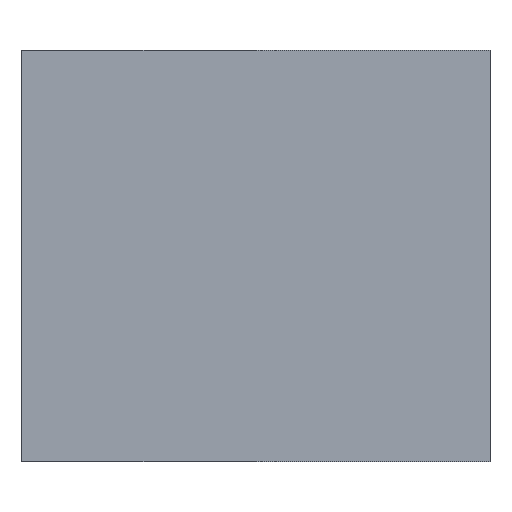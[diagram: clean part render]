
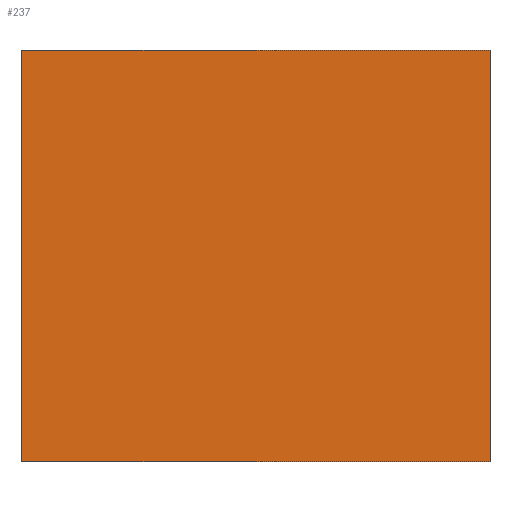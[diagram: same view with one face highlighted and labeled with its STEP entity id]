
A CAD part, front view. The second image highlights one B-rep face of the part: STEP entity #237.
In plain terms, the highlighted planar face has unit normal (0, -1, 0).
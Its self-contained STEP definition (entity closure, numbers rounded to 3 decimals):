
#21 = EDGE_CURVE('',#22,#24,#26,.T.);
#22 = VERTEX_POINT('',#23);
#23 = CARTESIAN_POINT('',(-14.2,-17.,0.));
#24 = VERTEX_POINT('',#25);
#25 = CARTESIAN_POINT('',(-14.2,-17.,25.));
#26 = SURFACE_CURVE('',#27,(#31,#43),.PCURVE_S1.);
#27 = LINE('',#28,#29);
#28 = CARTESIAN_POINT('',(-14.2,-17.,0.));
#29 = VECTOR('',#30,1.);
#30 = DIRECTION('',(0.,0.,1.));
#31 = PCURVE('',#32,#37);
#32 = PLANE('',#33);
#33 = AXIS2_PLACEMENT_3D('',#34,#35,#36);
#34 = CARTESIAN_POINT('',(-14.2,-17.,0.));
#35 = DIRECTION('',(1.,0.,0.));
#36 = DIRECTION('',(0.,0.,1.));
#37 = DEFINITIONAL_REPRESENTATION('',(#38),#42);
#38 = LINE('',#39,#40);
#39 = CARTESIAN_POINT('',(0.,0.));
#40 = VECTOR('',#41,1.);
#41 = DIRECTION('',(1.,0.));
#42 = ( GEOMETRIC_REPRESENTATION_CONTEXT(2) 
PARAMETRIC_REPRESENTATION_CONTEXT() REPRESENTATION_CONTEXT('2D SPACE',''
  ) );
#43 = PCURVE('',#44,#49);
#44 = PLANE('',#45);
#45 = AXIS2_PLACEMENT_3D('',#46,#47,#48);
#46 = CARTESIAN_POINT('',(-14.2,-17.,0.));
#47 = DIRECTION('',(0.,1.,0.));
#48 = DIRECTION('',(0.,0.,1.));
#49 = DEFINITIONAL_REPRESENTATION('',(#50),#54);
#50 = LINE('',#51,#52);
#51 = CARTESIAN_POINT('',(0.,0.));
#52 = VECTOR('',#53,1.);
#53 = DIRECTION('',(1.,0.));
#54 = ( GEOMETRIC_REPRESENTATION_CONTEXT(2) 
PARAMETRIC_REPRESENTATION_CONTEXT() REPRESENTATION_CONTEXT('2D SPACE',''
  ) );
#72 = PLANE('',#73);
#73 = AXIS2_PLACEMENT_3D('',#74,#75,#76);
#74 = CARTESIAN_POINT('',(-14.2,-17.,0.));
#75 = DIRECTION('',(0.,0.,1.));
#76 = DIRECTION('',(1.,0.,0.));
#126 = PLANE('',#127);
#127 = AXIS2_PLACEMENT_3D('',#128,#129,#130);
#128 = CARTESIAN_POINT('',(-14.2,-17.,25.));
#129 = DIRECTION('',(0.,0.,1.));
#130 = DIRECTION('',(1.,0.,0.));
#141 = EDGE_CURVE('',#142,#144,#146,.T.);
#142 = VERTEX_POINT('',#143);
#143 = CARTESIAN_POINT('',(14.2,-17.,0.));
#144 = VERTEX_POINT('',#145);
#145 = CARTESIAN_POINT('',(14.2,-17.,25.));
#146 = SURFACE_CURVE('',#147,(#151,#163),.PCURVE_S1.);
#147 = LINE('',#148,#149);
#148 = CARTESIAN_POINT('',(14.2,-17.,0.));
#149 = VECTOR('',#150,1.);
#150 = DIRECTION('',(0.,0.,1.));
#151 = PCURVE('',#152,#157);
#152 = PLANE('',#153);
#153 = AXIS2_PLACEMENT_3D('',#154,#155,#156);
#154 = CARTESIAN_POINT('',(14.2,-17.,0.));
#155 = DIRECTION('',(1.,0.,0.));
#156 = DIRECTION('',(0.,0.,1.));
#157 = DEFINITIONAL_REPRESENTATION('',(#158),#162);
#158 = LINE('',#159,#160);
#159 = CARTESIAN_POINT('',(0.,0.));
#160 = VECTOR('',#161,1.);
#161 = DIRECTION('',(1.,0.));
#162 = ( GEOMETRIC_REPRESENTATION_CONTEXT(2) 
PARAMETRIC_REPRESENTATION_CONTEXT() REPRESENTATION_CONTEXT('2D SPACE',''
  ) );
#163 = PCURVE('',#44,#164);
#164 = DEFINITIONAL_REPRESENTATION('',(#165),#169);
#165 = LINE('',#166,#167);
#166 = CARTESIAN_POINT('',(0.,28.4));
#167 = VECTOR('',#168,1.);
#168 = DIRECTION('',(1.,0.));
#169 = ( GEOMETRIC_REPRESENTATION_CONTEXT(2) 
PARAMETRIC_REPRESENTATION_CONTEXT() REPRESENTATION_CONTEXT('2D SPACE',''
  ) );
#237 = ADVANCED_FACE('',(#238),#44,.F.);
#238 = FACE_BOUND('',#239,.F.);
#239 = EDGE_LOOP('',(#240,#261,#262,#283));
#240 = ORIENTED_EDGE('',*,*,#241,.F.);
#241 = EDGE_CURVE('',#22,#142,#242,.T.);
#242 = SURFACE_CURVE('',#243,(#247,#254),.PCURVE_S1.);
#243 = LINE('',#244,#245);
#244 = CARTESIAN_POINT('',(-14.2,-17.,0.));
#245 = VECTOR('',#246,1.);
#246 = DIRECTION('',(1.,0.,0.));
#247 = PCURVE('',#44,#248);
#248 = DEFINITIONAL_REPRESENTATION('',(#249),#253);
#249 = LINE('',#250,#251);
#250 = CARTESIAN_POINT('',(0.,0.));
#251 = VECTOR('',#252,1.);
#252 = DIRECTION('',(0.,1.));
#253 = ( GEOMETRIC_REPRESENTATION_CONTEXT(2) 
PARAMETRIC_REPRESENTATION_CONTEXT() REPRESENTATION_CONTEXT('2D SPACE',''
  ) );
#254 = PCURVE('',#72,#255);
#255 = DEFINITIONAL_REPRESENTATION('',(#256),#260);
#256 = LINE('',#257,#258);
#257 = CARTESIAN_POINT('',(0.,0.));
#258 = VECTOR('',#259,1.);
#259 = DIRECTION('',(1.,0.));
#260 = ( GEOMETRIC_REPRESENTATION_CONTEXT(2) 
PARAMETRIC_REPRESENTATION_CONTEXT() REPRESENTATION_CONTEXT('2D SPACE',''
  ) );
#261 = ORIENTED_EDGE('',*,*,#21,.T.);
#262 = ORIENTED_EDGE('',*,*,#263,.T.);
#263 = EDGE_CURVE('',#24,#144,#264,.T.);
#264 = SURFACE_CURVE('',#265,(#269,#276),.PCURVE_S1.);
#265 = LINE('',#266,#267);
#266 = CARTESIAN_POINT('',(-14.2,-17.,25.));
#267 = VECTOR('',#268,1.);
#268 = DIRECTION('',(1.,0.,0.));
#269 = PCURVE('',#44,#270);
#270 = DEFINITIONAL_REPRESENTATION('',(#271),#275);
#271 = LINE('',#272,#273);
#272 = CARTESIAN_POINT('',(25.,0.));
#273 = VECTOR('',#274,1.);
#274 = DIRECTION('',(0.,1.));
#275 = ( GEOMETRIC_REPRESENTATION_CONTEXT(2) 
PARAMETRIC_REPRESENTATION_CONTEXT() REPRESENTATION_CONTEXT('2D SPACE',''
  ) );
#276 = PCURVE('',#126,#277);
#277 = DEFINITIONAL_REPRESENTATION('',(#278),#282);
#278 = LINE('',#279,#280);
#279 = CARTESIAN_POINT('',(0.,0.));
#280 = VECTOR('',#281,1.);
#281 = DIRECTION('',(1.,0.));
#282 = ( GEOMETRIC_REPRESENTATION_CONTEXT(2) 
PARAMETRIC_REPRESENTATION_CONTEXT() REPRESENTATION_CONTEXT('2D SPACE',''
  ) );
#283 = ORIENTED_EDGE('',*,*,#141,.F.);
